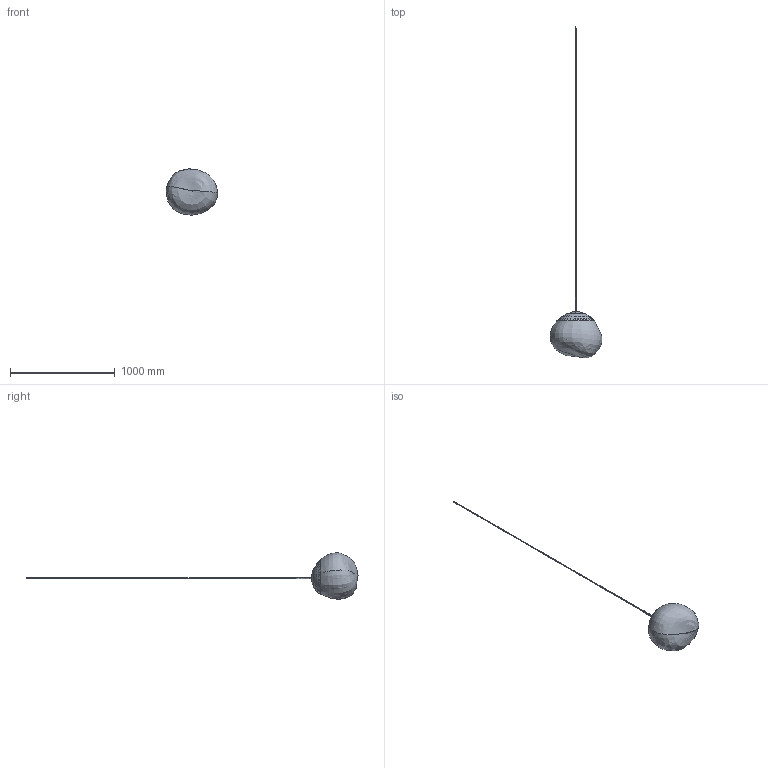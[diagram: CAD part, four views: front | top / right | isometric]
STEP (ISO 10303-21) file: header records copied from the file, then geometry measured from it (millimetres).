
FILE_DESCRIPTION(/* description */ (''),/* implementation_level */ '2;1');
FILE_NAME(/* name */ 'LED',/* time_stamp */ '2022-07-12T14:22:39+01:00',/* author */ (''),/* organization */ (''),/* preprocessor_version */ 'ST-DEVELOPER v16.5',/* originating_system */ '',/* authorisation */ '');
FILE_SCHEMA (('AUTOMOTIVE_DESIGN'));
Products named in the file (10): MELT LED; LEDP02; TAILSTOCK_ASSEMBLY_ANY_ASM; SOCKET_SET_SCREW_FLAT_POI-69718; TAILSTOCK_TUBE_ANY; SOCKET_SET_SCREW_FLAT_POI-12790; THREADED_TUBE_ANY; CABLE_GRIP_ANY; 2018-08-14 Melt 50cm; 2 Core Cable
Assembly tree (9 placements, depth 3):
  MELT LED
    LEDP02
    TAILSTOCK_ASSEMBLY_ANY_ASM
      SOCKET_SET_SCREW_FLAT_POI-69718
      TAILSTOCK_TUBE_ANY
      SOCKET_SET_SCREW_FLAT_POI-12790
      THREADED_TUBE_ANY
      CABLE_GRIP_ANY
    2018-08-14 Melt 50cm
    2 Core Cable
Bounding box: 496.42 x 3171.14 x 443.4 mm (x, y, z)
Volume: 2250844.7 mm3; surface area: 1742564.6 mm2
Topology: 64 solids, 64 shells, 1553 faces, 4346 edges, 2935 vertices
Faces by surface type: bspline 908, plane 645
Entity records: 150798 total; most frequent: CARTESIAN_POINT 123108, ORIENTED_EDGE 8668, EDGE_CURVE 4334, B_SPLINE_CURVE_WITH_KNOTS 3667, VERTEX_POINT 2935, EDGE_LOOP 1661, ADVANCED_FACE 1553, FACE_OUTER_BOUND 1553
